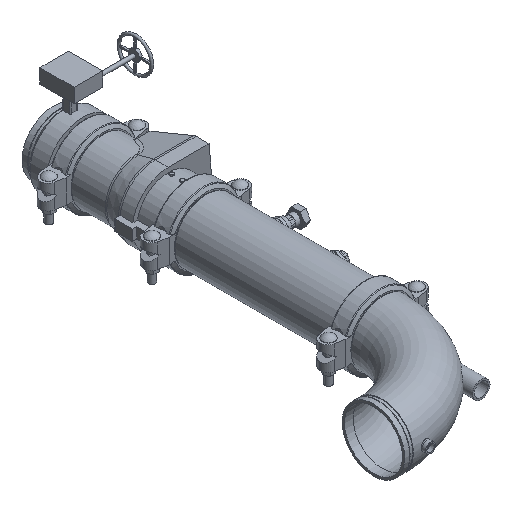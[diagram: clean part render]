
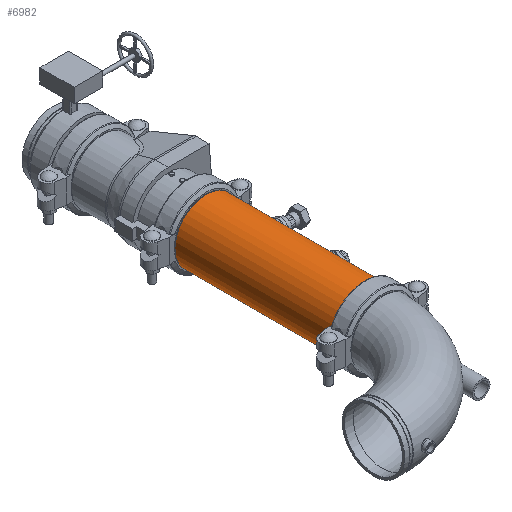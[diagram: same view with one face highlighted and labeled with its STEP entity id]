
A CAD part, isometric view. The second image highlights one B-rep face of the part: STEP entity #6982.
In plain terms, the highlighted cylindrical face has radius 109.537 mm (diameter 219.075 mm), a full revolution.
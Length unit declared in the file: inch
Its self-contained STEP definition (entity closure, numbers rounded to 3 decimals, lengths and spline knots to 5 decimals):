
#195=LINE('',#10542,#709);
#709=VECTOR('',#8394,4.3125);
#1223=CYLINDRICAL_SURFACE('',#7554,4.3125);
#1433=FACE_OUTER_BOUND('',#1826,.T.);
#1826=EDGE_LOOP('',(#4365,#4366,#4367,#4368,#4369,#4370));
#2297=CIRCLE('',#7552,4.3125);
#2298=CIRCLE('',#7553,4.3125);
#2299=CIRCLE('',#7555,4.3125);
#2300=CIRCLE('',#7556,4.3125);
#2685=VERTEX_POINT('',#10533);
#2686=VERTEX_POINT('',#10534);
#2687=VERTEX_POINT('',#10538);
#2688=VERTEX_POINT('',#10539);
#3360=EDGE_CURVE('',#2685,#2686,#2297,.T.);
#3361=EDGE_CURVE('',#2686,#2685,#2298,.T.);
#3362=EDGE_CURVE('',#2687,#2688,#2299,.T.);
#3363=EDGE_CURVE('',#2688,#2687,#2300,.T.);
#3364=EDGE_CURVE('',#2688,#2686,#195,.T.);
#4365=ORIENTED_EDGE('',*,*,#3362,.F.);
#4366=ORIENTED_EDGE('',*,*,#3363,.F.);
#4367=ORIENTED_EDGE('',*,*,#3364,.T.);
#4368=ORIENTED_EDGE('',*,*,#3361,.T.);
#4369=ORIENTED_EDGE('',*,*,#3360,.T.);
#4370=ORIENTED_EDGE('',*,*,#3364,.F.);
#6982=ADVANCED_FACE('',(#1433),#1223,.T.);
#7552=AXIS2_PLACEMENT_3D('',#10535,#8384,#8385);
#7553=AXIS2_PLACEMENT_3D('',#10536,#8386,#8387);
#7554=AXIS2_PLACEMENT_3D('',#10537,#8388,#8389);
#7555=AXIS2_PLACEMENT_3D('',#10540,#8390,#8391);
#7556=AXIS2_PLACEMENT_3D('',#10541,#8392,#8393);
#8384=DIRECTION('center_axis',(1.,0.,0.));
#8385=DIRECTION('ref_axis',(0.,0.,-1.));
#8386=DIRECTION('center_axis',(1.,0.,0.));
#8387=DIRECTION('ref_axis',(0.,0.,-1.));
#8388=DIRECTION('center_axis',(1.,0.,0.));
#8389=DIRECTION('ref_axis',(0.,1.,0.));
#8390=DIRECTION('center_axis',(1.,0.,0.));
#8391=DIRECTION('ref_axis',(0.,0.,-1.));
#8392=DIRECTION('center_axis',(1.,0.,0.));
#8393=DIRECTION('ref_axis',(0.,0.,-1.));
#8394=DIRECTION('',(-1.,0.,0.));
#10533=CARTESIAN_POINT('',(-10.83475,4.3125,0.));
#10534=CARTESIAN_POINT('',(-10.83475,-4.3125,0.));
#10535=CARTESIAN_POINT('Origin',(-10.83475,0.,0.));
#10536=CARTESIAN_POINT('Origin',(-10.83475,0.,0.));
#10537=CARTESIAN_POINT('Origin',(0.,0.,0.));
#10538=CARTESIAN_POINT('',(10.83475,4.3125,0.));
#10539=CARTESIAN_POINT('',(10.83475,-4.3125,0.));
#10540=CARTESIAN_POINT('Origin',(10.83475,0.,0.));
#10541=CARTESIAN_POINT('Origin',(10.83475,0.,0.));
#10542=CARTESIAN_POINT('',(0.,-4.3125,0.));
